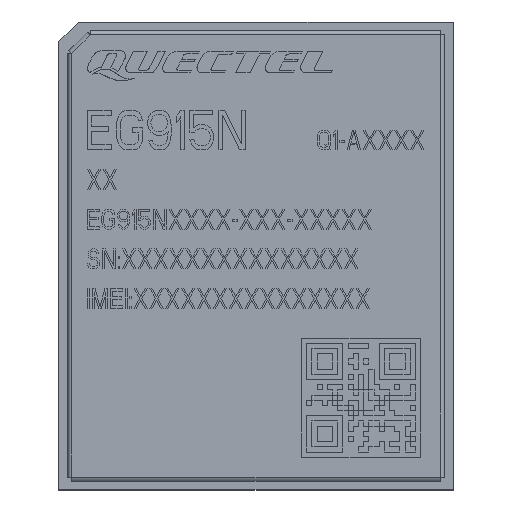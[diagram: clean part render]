
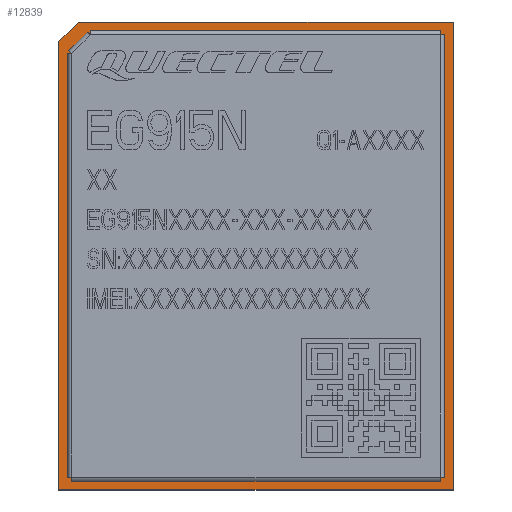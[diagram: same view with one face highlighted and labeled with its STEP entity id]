
A CAD part, top view. The second image highlights one B-rep face of the part: STEP entity #12839.
In plain terms, the highlighted planar face has unit normal (0, 0, 1).
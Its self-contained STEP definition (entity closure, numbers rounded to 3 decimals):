
#21=DIRECTION('',(-1.,0.,0.));
#22=VECTOR('',#21,18.9);
#23=CARTESIAN_POINT('',(19.9,23.6,0.));
#24=LINE('',#23,#22);
#29=DIRECTION('',(0.,1.,0.));
#30=VECTOR('',#29,23.6);
#31=CARTESIAN_POINT('',(19.9,0.,0.));
#32=LINE('',#31,#30);
#36=DIRECTION('',(1.,0.,0.));
#37=VECTOR('',#36,19.9);
#38=CARTESIAN_POINT('',(0.,0.,0.));
#39=LINE('',#38,#37);
#43=DIRECTION('',(0.,-1.,0.));
#44=VECTOR('',#43,22.6);
#45=CARTESIAN_POINT('',(0.,22.6,0.));
#46=LINE('',#45,#44);
#50=DIRECTION('',(-0.707,-0.707,0.));
#51=VECTOR('',#50,1.414);
#52=CARTESIAN_POINT('',(1.,23.6,0.));
#53=LINE('',#52,#51);
#10774=CARTESIAN_POINT('',(19.9,23.6,0.));
#10775=CARTESIAN_POINT('',(1.,23.6,0.));
#10776=VERTEX_POINT('',#10774);
#10777=VERTEX_POINT('',#10775);
#10778=CARTESIAN_POINT('',(0.,22.6,0.));
#10779=VERTEX_POINT('',#10778);
#10780=CARTESIAN_POINT('',(0.,0.,0.));
#10781=VERTEX_POINT('',#10780);
#10782=CARTESIAN_POINT('',(19.9,0.,0.));
#10783=VERTEX_POINT('',#10782);
#12822=CARTESIAN_POINT('',(0.,0.,0.));
#12823=DIRECTION('',(0.,0.,1.));
#12824=DIRECTION('',(1.,0.,0.));
#12825=AXIS2_PLACEMENT_3D('',#12822,#12823,#12824);
#12826=PLANE('',#12825);
#12828=ORIENTED_EDGE('',*,*,#12827,.F.);
#12830=ORIENTED_EDGE('',*,*,#12829,.F.);
#12832=ORIENTED_EDGE('',*,*,#12831,.F.);
#12834=ORIENTED_EDGE('',*,*,#12833,.F.);
#12836=ORIENTED_EDGE('',*,*,#12835,.F.);
#12837=EDGE_LOOP('',(#12828,#12830,#12832,#12834,#12836));
#12838=FACE_OUTER_BOUND('',#12837,.F.);
#12827=EDGE_CURVE('',#10776,#10777,#24,.T.);
#12829=EDGE_CURVE('',#10783,#10776,#32,.T.);
#12831=EDGE_CURVE('',#10781,#10783,#39,.T.);
#12833=EDGE_CURVE('',#10779,#10781,#46,.T.);
#12835=EDGE_CURVE('',#10777,#10779,#53,.T.);
#12839=ADVANCED_FACE('',(#12838),#12826,.T.);
